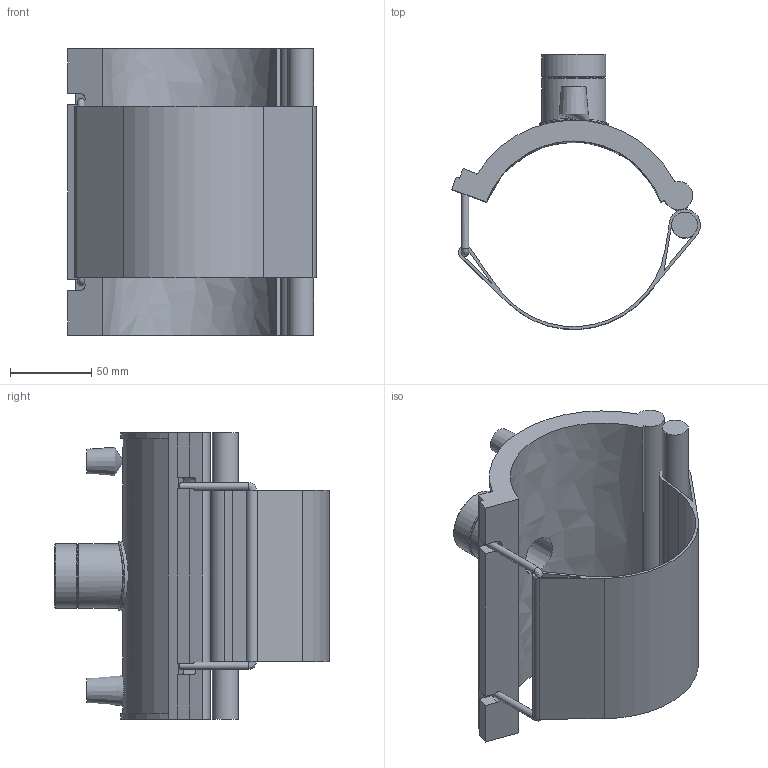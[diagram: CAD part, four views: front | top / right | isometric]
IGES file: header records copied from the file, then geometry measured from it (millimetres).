
Global section: file name: 5938B00304060.ipt; native system: Autodesk Inventor 2019; preprocessor: unknown; author: KIM; date: 20210830.101056; units: inch
Bounding box: 152.91 x 169.05 x 176.02 mm (x, y, z)
Volume: 475663.4 mm3; surface area: 150635.1 mm2
Topology: 1 solids, 2 shells, 80 faces, 204 edges, 132 vertices
Faces by surface type: plane 44, cylinder 19, revolution 11, cone 5, bspline 1
Full cylindrical faces by diameter (mm): 4 x2, 4.564 x2, 15.886 x1, 38.378 x1, 39.378 x2, 42.407 x1
